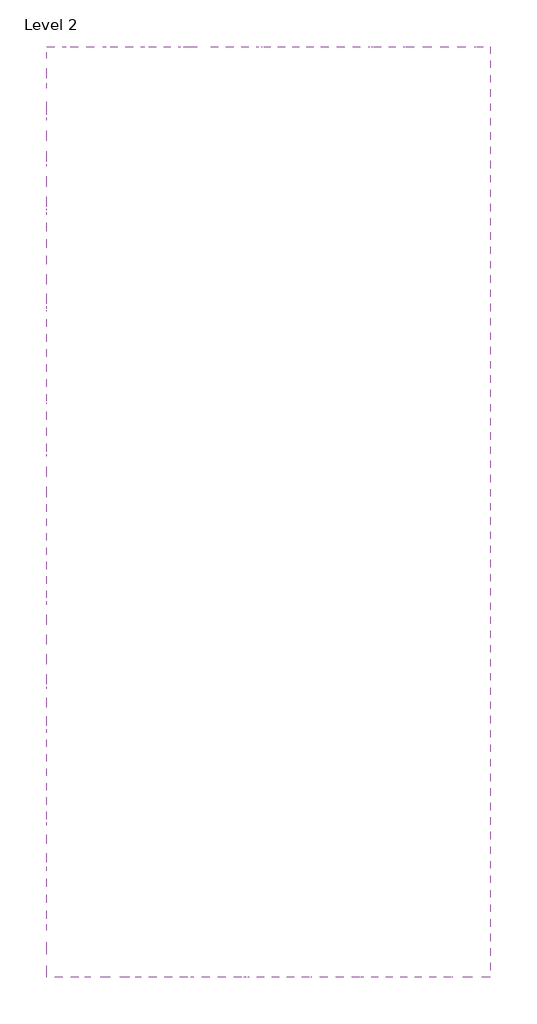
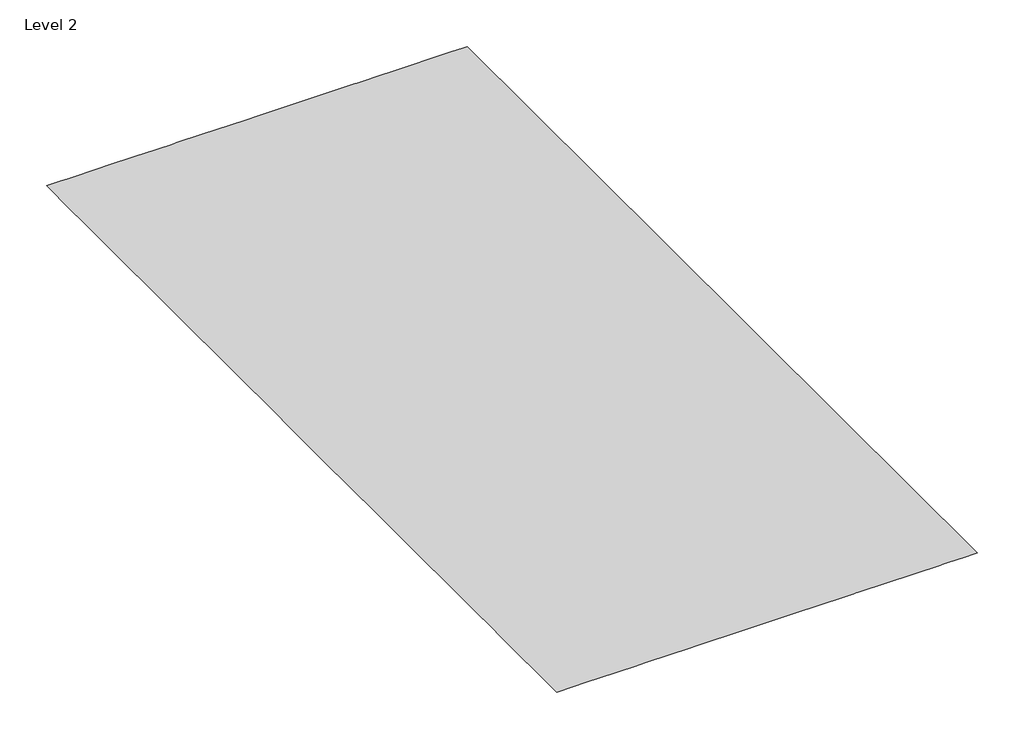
# One storey: 1 proxy.
"""IFC4 building model written with IfcOpenShell, lengths in millimetres."""

from ifc_helpers import new_model, si_unit, origin, place, context, project, spatial, triangles, element, save

model = new_model("IFC4")

# Units and contexts
model_context = context("Model", 3, world=origin())
ifc_project = project(units=[si_unit("LENGTHUNIT", "METRE", prefix="MILLI")], contexts=[model_context])

# Site, building, storey
site = spatial("IfcSite", under=ifc_project)
building = spatial("IfcBuilding", under=site)
storey = spatial("IfcBuildingStorey", under=building, Name="Level 2", Elevation=1798.1534103)

# Proxy
placement = place(None, origin())
element("IfcBuildingElementProxy", 1, Name="Building Element Proxy", at=placement, inside=storey, context=model_context, shape_type="Tessellation", body=[
    triangles([(-108180.6897949, -39207.7835449, 3048.0), (-108180.6897949, -39908.1128906, 3048.0), (-108180.6897949, -41068.497876, 3048.0), (-108180.6897949, -41676.3444946, 3048.0), (-108180.6897949, -43253.1691772, 3048.0), (-108180.6897949, -43558.2528809, 3048.0), (-108180.6897949, -46017.042334, 3048.0), (-108180.6897949, -46283.4539795, 3048.0), (-108180.6897949, -48679.2658813, 3048.0), (-108180.6897949, -48891.9226685, 3048.0), (-108180.6897949, -49134.4287964, 3048.0), (-108180.6897949, -52069.3473267, 3048.0), (-108180.6897949, -54417.2830811, 3048.0), (-108180.6897949, -54699.7774658, 3048.0), (-108180.6897949, -54863.2605103, 3048.0), (-108180.6897949, -57547.9617554, 3048.0), (-108180.6897949, -60183.8473755, 3048.0), (-108180.6897949, -60320.3832275, 3048.0), (-108180.6897949, -63151.6104126, 3048.0), (-108180.6897949, -63429.1702148, 3048.0), (-108180.6897949, -65841.3671631, 3048.0), (-108180.6897949, -69244.9966187, 3048.0), (-108180.6897949, -71797.5338379, 3048.0), (-108180.6897949, -72183.6405029, 3048.0), (-108180.6897949, -74546.6776611, 3048.0), (-108180.6897949, -76909.7148193, 3048.0), (-108180.6897949, -77158.4624268, 3048.0), (-108180.6897949, -79343.9569336, 3048.0), (-108180.6897949, -79750.3786377, 3048.0), (-108180.6897949, -82306.4644775, 3048.0), (-108180.6897949, -84862.5596191, 3048.0), (-108180.6897949, -85227.4489746, 3048.0), (-108180.6897949, -87425.5101563, 3048.0), (-108180.6897949, -87931.6001953, 3048.0), (-108180.6897949, -90750.2281494, 3048.0), (-108180.6897949, -91426.1589844, 3048.0), (-108180.6897949, -92847.6815186, 3048.0), (-108180.6897949, -94224.1835449, 3048.0), (-106263.6347168, -94224.1835449, 3048.0), (-105582.820459, -94224.1835449, 3048.0), (-103272.2917236, -94224.1835449, 3048.0), (-102587.5242187, -94224.1835449, 3048.0), (-99835.5898682, -94224.1835449, 3048.0), (-99493.4340088, -94224.1835449, 3048.0), (-96649.523877, -94224.1835449, 3048.0), (-96373.1593506, -94224.1835449, 3048.0), (-96187.2451172, -94224.1835449, 3048.0), (-92641.2476074, -94224.1835449, 3048.0), (-92497.5354492, -94224.1835449, 3048.0), (-89674.6379883, -94224.1835449, 3048.0), (-89535.5488037, -94224.1835449, 3048.0), (-89424.8206787, -94224.1835449, 3048.0), (-84280.5486328, -94224.1835449, 3048.0), (-84161.1512695, -94224.1835449, 3048.0), (-83022.7649414, -94224.1835449, 3048.0), (-82979.1303955, -94224.1835449, 3048.0), (-81967.8897949, -94224.1835449, 3048.0), (-81967.8897949, -79605.6897949, 3048.0), (-81967.8897949, -60337.0659302, 3048.0), (-81967.8897949, -39207.7835449, 3048.0), (-82750.1955322, -39207.7835449, 3048.0), (-82889.470752, -39207.7835449, 3048.0), (-86952.2088135, -39207.7835449, 3048.0), (-87091.3724121, -39207.7835449, 3048.0), (-88844.9304932, -39207.7835449, 3048.0), (-88979.9734131, -39207.7835449, 3048.0), (-89161.2460693, -39207.7835449, 3048.0), (-91973.8557861, -39207.7835449, 3048.0), (-95348.9986084, -39207.7835449, 3048.0), (-95502.3566895, -39207.7835449, 3048.0), (-95786.0696045, -39207.7835449, 3048.0), (-98475.4124268, -39207.7835449, 3048.0), (-100089.0162598, -39207.7835449, 3048.0), (-100394.0581055, -39207.7835449, 3048.0), (-102128.2871338, -39207.7835449, 3048.0), (-102612.7970947, -39207.7835449, 3048.0), (-104424.6958008, -39207.7835449, 3048.0), (-104870.0732666, -39207.7835449, 3048.0), (-106786.6911621, -39207.7835449, 3048.0), (-107238.979834, -39207.7835449, 3048.0)], [[40, 35, 36], [35, 41, 34], [42, 33, 34], [37, 39, 36], [44, 31, 32], [58, 29, 30], [58, 28, 29], [30, 31, 45], [32, 33, 43], [58, 26, 27], [58, 24, 25], [58, 23, 24], [25, 26, 58], [59, 20, 21], [59, 19, 20], [21, 22, 59], [59, 18, 19], [22, 23, 58], [27, 28, 58], [77, 5, 6], [73, 8, 9], [74, 7, 8], [76, 6, 7], [80, 1, 2], [79, 3, 4], [2, 3, 80], [4, 78, 79], [78, 4, 5], [59, 13, 14], [59, 16, 17], [59, 15, 16], [59, 14, 15], [72, 10, 11], [80, 3, 79], [13, 69, 12], [12, 71, 11], [10, 72, 9], [59, 17, 18], [37, 38, 39], [35, 40, 41], [42, 43, 33], [42, 34, 41], [32, 43, 44], [45, 46, 30], [47, 58, 30], [30, 46, 47], [44, 45, 31], [58, 47, 48], [49, 50, 58], [52, 53, 58], [51, 52, 58], [50, 51, 58], [54, 55, 58], [56, 57, 58], [56, 58, 55], [54, 58, 53], [49, 58, 48], [59, 22, 58], [71, 72, 11], [71, 12, 70], [69, 70, 12], [73, 9, 72], [77, 6, 76], [7, 75, 76], [75, 7, 74], [8, 73, 74], [5, 77, 78], [62, 63, 59], [61, 59, 60], [59, 61, 62], [63, 64, 59], [67, 68, 59], [65, 66, 59], [64, 65, 59], [67, 59, 66], [59, 68, 69], [13, 59, 69], [36, 39, 40]], closed=False),
])

save(model, "model.ifc")
